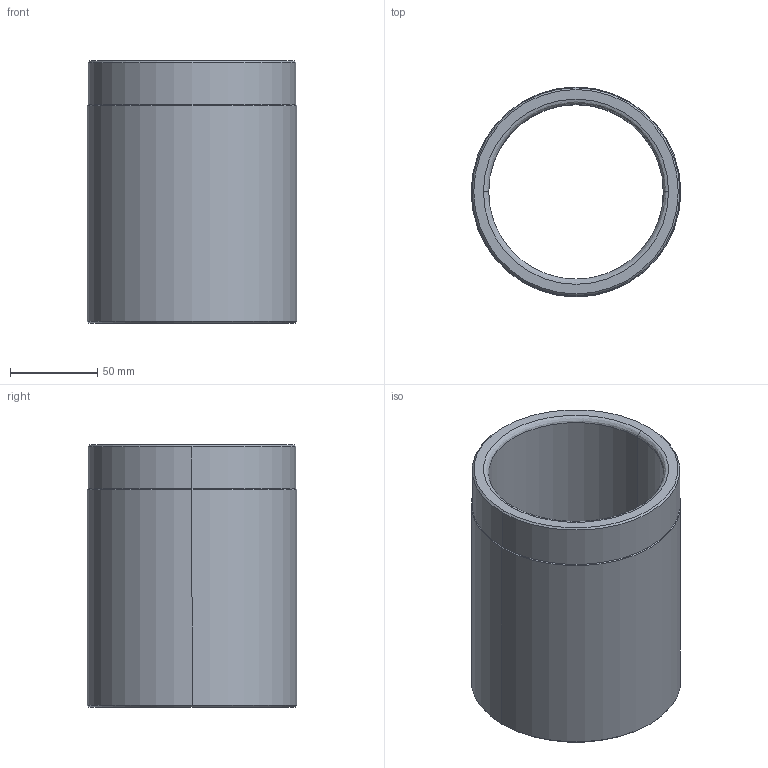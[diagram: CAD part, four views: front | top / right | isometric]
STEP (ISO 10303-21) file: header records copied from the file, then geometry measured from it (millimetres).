
FILE_DESCRIPTION((''),'2;1');
FILE_NAME('','2010-08-30T17:16:24+09:00',('misumi'),(''),'M/STEP i/f 1R2-14','CADmeister v5.1','');
FILE_SCHEMA(('AUTOMOTIVE_DESIGN'));
Length unit declared in the file: millimetre
Products named in the file (1): GBW100
Bounding box: 120 x 120 x 150 mm (x, y, z)
Volume: 508255.8 mm3; surface area: 108877.9 mm2
Topology: 1 solids, 1 shells, 20 faces, 40 edges, 22 vertices
Faces by surface type: cone 8, cylinder 6, revolution 4, plane 2
Entity records: 829 total; most frequent: DIRECTION 112, CARTESIAN_POINT 87, ORIENTED_EDGE 80, COLOUR_RGB 51, AXIS2_PLACEMENT_3D 47, CURVE_STYLE 46, PRESENTATION_STYLE_ASSIGNMENT 45, OVER_RIDING_STYLED_ITEM 44
